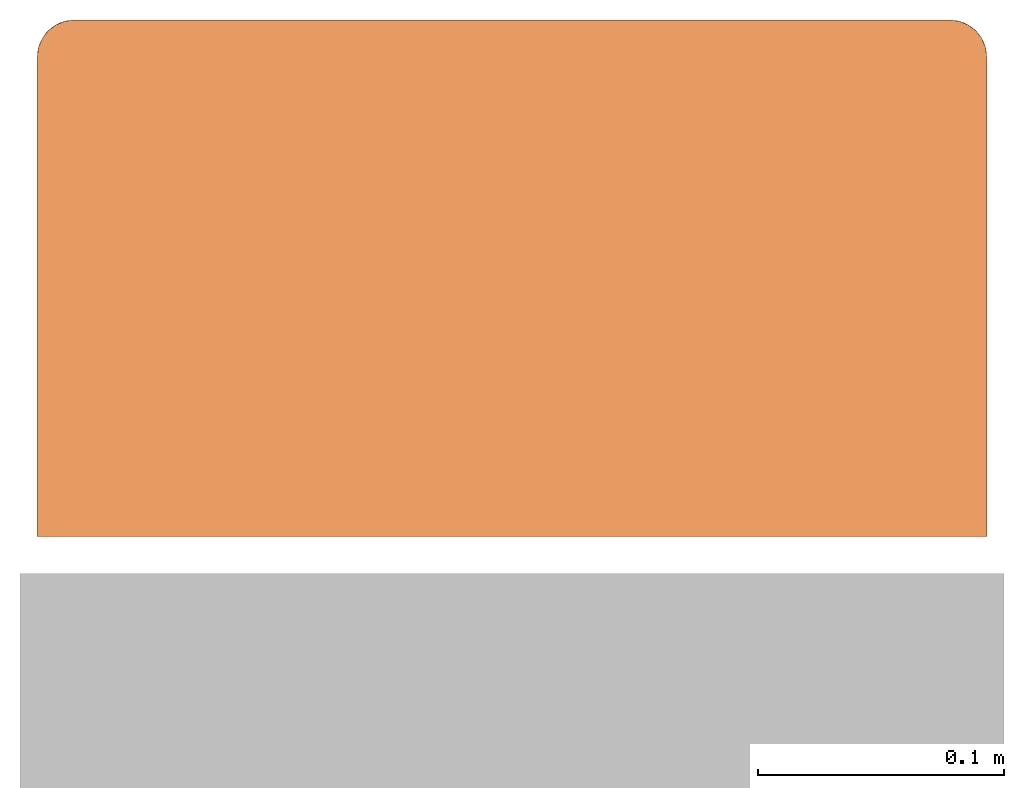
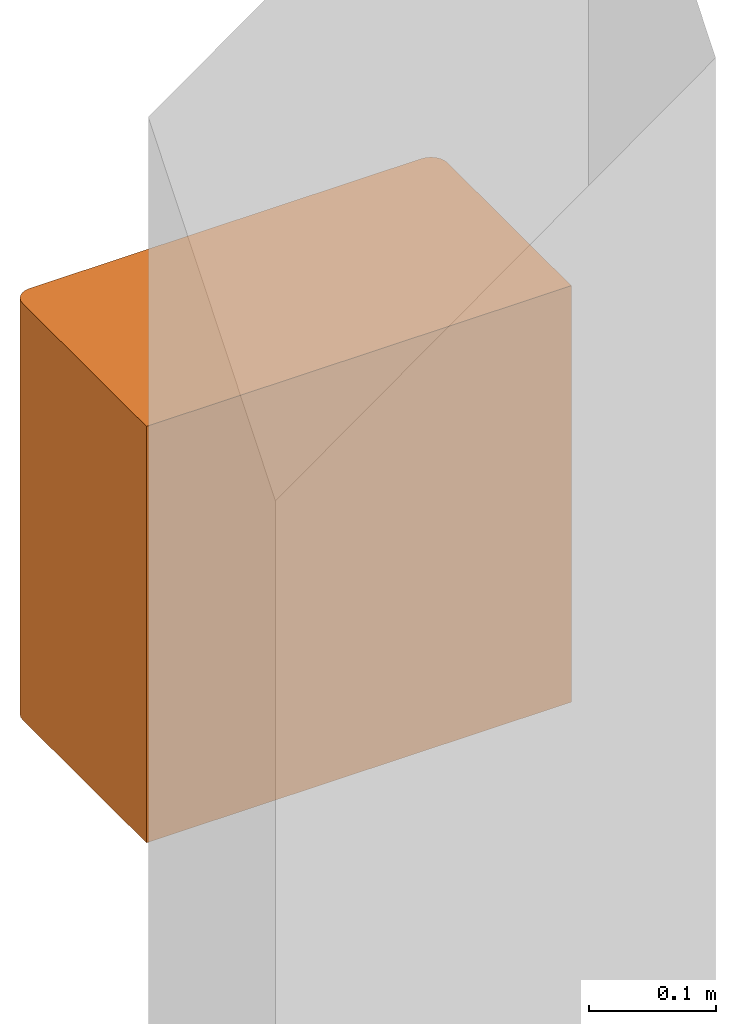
# One storey, part 2 of 2: 1 proxy.
"""IFC2X3 building model written with IfcOpenShell, lengths in millimetres."""

from ifc_helpers import new_model, entity, si_unit, converted_unit, derived_unit, direction, frame, origin, place, context, subcontext, project, spatial, faceted_brep, source, transform, mapped, element, save


model = new_model("IFC2X3")

# Units and contexts
model_context = context("Model", 3, precision=0.01, world=origin(), true_north=direction((6.12303176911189e-17, 1.0)))
context_of_model = context(None, 3, precision=0.01, world=origin(), true_north=direction((6.12303176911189e-17, 1.0)))
body_context = subcontext(model_context, "Body", "Model", "MODEL_VIEW")
ifc_project = project(units=[si_unit("LENGTHUNIT", "METRE", prefix="MILLI"), si_unit("AREAUNIT", "SQUARE_METRE"), si_unit("VOLUMEUNIT", "CUBIC_METRE"), converted_unit("PLANEANGLEUNIT", "DEGREE", entity("IfcRatioMeasure", 0.0174532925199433), si_unit("PLANEANGLEUNIT", "RADIAN"), dimensions=[0, 0, 0, 0, 0, 0, 0]), si_unit("MASSUNIT", "GRAM", prefix="KILO"), si_unit("TIMEUNIT", "SECOND"), si_unit("FREQUENCYUNIT", "HERTZ"), si_unit("THERMODYNAMICTEMPERATUREUNIT", "DEGREE_CELSIUS"), derived_unit("THERMALTRANSMITTANCEUNIT", [(si_unit("MASSUNIT", "GRAM", prefix="KILO"), 1), (si_unit("THERMODYNAMICTEMPERATUREUNIT", "KELVIN"), -1), (si_unit("TIMEUNIT", "SECOND"), -3)]), derived_unit("VOLUMETRICFLOWRATEUNIT", [(si_unit("LENGTHUNIT", "METRE"), 3), (si_unit("TIMEUNIT", "SECOND"), -1)]), si_unit("ELECTRICCURRENTUNIT", "AMPERE"), si_unit("ELECTRICVOLTAGEUNIT", "VOLT"), si_unit("POWERUNIT", "WATT"), si_unit("FORCEUNIT", "NEWTON", prefix="KILO"), si_unit("ILLUMINANCEUNIT", "LUX"), si_unit("LUMINOUSFLUXUNIT", "LUMEN"), si_unit("LUMINOUSINTENSITYUNIT", "CANDELA"), si_unit("PRESSUREUNIT", "PASCAL")], contexts=[model_context, context_of_model])

# Site, building, storey
site_placement = place(None, origin())
site = spatial("IfcSite", under=ifc_project, at=site_placement, Name="Default", CompositionType="ELEMENT")
building_placement = place(site_placement, origin())
building = spatial("IfcBuilding", under=site, at=building_placement, CompositionType="ELEMENT")
storey_placement = place(building_placement, origin())
storey = spatial("IfcBuildingStorey", under=building, at=storey_placement, Name="Level 1", CompositionType="ELEMENT", Elevation=0.0)

# Proxy
shared_shape = source(origin(), body_context, "Body", "Brep", [
    faceted_brep([(16.5952722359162, 210.0, 400.0), (12.7129865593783, 209.488887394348, 400.0), (9.09527223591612, 207.990381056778, 400.0), (5.98867051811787, 205.60660171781, 400.0), (3.60489117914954, 202.500000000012, 400.0), (2.10638484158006, 198.882285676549, 400.0), (1.595272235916, 195.0, 400.0), (1.595272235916, 0.0, 400.0), (387.595272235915, 0.0, 400.0), (387.595272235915, 195.0, 400.0), (387.084159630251, 198.882285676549, 400.0), (385.585653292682, 202.500000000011, 400.0), (383.201873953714, 205.60660171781, 400.0), (380.095272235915, 207.990381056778, 400.0), (376.477557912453, 209.488887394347, 400.0), (372.595272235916, 210.0, 400.0), (325.467292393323, 210.0, 0.0), (372.595272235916, 210.0, 0.0), (376.477557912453, 209.488887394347, 0.0), (380.095272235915, 207.990381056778, 0.0), (383.201873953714, 205.60660171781, 0.0), (385.585653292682, 202.500000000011, 0.0), (387.084159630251, 198.882285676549, 0.0), (387.595272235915, 195.0, 0.0), (387.595272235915, 0.0, 0.0), (1.595272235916, 0.0, 0.0), (1.595272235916, 195.0, 0.0), (2.10638484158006, 198.882285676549, 0.0), (3.60489117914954, 202.500000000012, 0.0), (5.98867051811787, 205.60660171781, 0.0), (9.09527223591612, 207.990381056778, 0.0), (12.7129865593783, 209.488887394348, 0.0), (16.595272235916, 210.0, 0.0), (45.4672923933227, 210.0, 0.0), (45.4672923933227, 208.0, 0.0), (325.467292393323, 208.0, 0.0), (387.595272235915, 195.0, 135.231947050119), (387.595272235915, 195.0, 270.466224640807), (387.315442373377, 197.883850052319, 311.607663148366), (386.45346522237, 200.740251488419, 275.988127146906), (387.291346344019, 198.004231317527, 202.849698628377), (384.495572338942, 204.131421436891, 308.003957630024), (386.00543343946, 201.720682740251, 200.0), (384.495572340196, 204.131421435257, 91.9960423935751), (384.4955723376, 204.13142143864, 200.0), (386.453465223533, 200.740251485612, 124.011872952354), (378.335523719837, 208.858192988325, 317.476397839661), (372.595272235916, 210.0, 129.533735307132), (375.246248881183, 209.763885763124, 82.4271111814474), (387.324927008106, 197.835007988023, 89.0465266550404), (381.726693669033, 206.900300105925, 282.406356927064), (372.595272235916, 210.0, 264.766867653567), (375.546033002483, 209.706903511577, 172.090468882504), (378.335523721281, 208.858192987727, 100.731055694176), (375.771392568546, 209.659886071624, 267.44708654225), (378.335523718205, 208.858192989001, 217.417775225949), (381.726693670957, 206.900300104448, 124.011872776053), (382.501732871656, 206.263304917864, 203.20911487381), (208.737407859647, 210.0, 153.701563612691), (204.595272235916, 210.0, 156.879936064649), (211.915780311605, 210.0, 149.55942798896), (199.771653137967, 210.0, 158.877944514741), (194.595272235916, 210.0, 159.55942798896), (213.913788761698, 210.0, 144.73580889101), (325.467292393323, 210.0, 40.0), (214.595272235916, 210.0, 139.55942798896), (213.913788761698, 210.0, 134.383047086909), (211.915780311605, 210.0, 129.55942798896), (208.737407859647, 210.0, 125.417292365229), (204.595272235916, 210.0, 122.238919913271), (199.771653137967, 210.0, 120.240911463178), (194.595272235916, 210.0, 119.55942798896), (45.4672923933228, 210.0, 40.0), (177.274764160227, 210.0, 149.55942798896), (175.276755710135, 210.0, 144.73580889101), (174.595272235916, 210.0, 139.55942798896), (189.418891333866, 210.0, 120.240911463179), (184.595272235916, 210.0, 122.238919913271), (180.453136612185, 210.0, 125.417292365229), (177.274764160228, 210.0, 129.55942798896), (175.276755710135, 210.0, 134.383047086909), (16.5952722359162, 210.0, 270.466278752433), (16.5952722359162, 210.0, 135.233118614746), (189.418891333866, 210.0, 158.877944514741), (184.595272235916, 210.0, 156.879936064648), (180.453136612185, 210.0, 153.701563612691), (13.7114221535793, 209.72017013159, 311.60766311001), (10.8550207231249, 208.858192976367, 275.988127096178), (13.5910409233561, 209.696074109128, 202.849700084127), (7.46385078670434, 206.900300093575, 308.003957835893), (9.8745894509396, 208.410161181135, 200.0), (7.46385079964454, 206.900300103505, 91.9960424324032), (7.46385077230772, 206.900300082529, 200.0), (10.8550207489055, 208.858192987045, 124.011873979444), (2.73707924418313, 200.740251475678, 317.476397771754), (1.595272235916, 195.0, 129.533681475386), (1.83138647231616, 197.650976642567, 82.4271110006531), (13.760264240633, 209.729654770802, 89.046527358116), (4.69497212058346, 204.131421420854, 282.406356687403), (1.595272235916, 195.0, 264.766840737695), (1.88836872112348, 197.950760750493, 172.090468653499), (2.73707924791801, 200.740251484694, 100.731055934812), (1.93538616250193, 198.176120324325, 267.447086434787), (2.73707923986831, 200.740251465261, 217.417774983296), (4.69497213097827, 204.131421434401, 124.011872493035), (5.33196730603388, 204.906460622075, 203.209114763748), (45.4672923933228, 208.0, 2.0), (325.467292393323, 208.0, 2.0), (325.467292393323, 208.0, 40.0), (45.4672923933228, 208.0, 40.0), (174.595272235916, 208.0, 139.55942798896), (175.276755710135, 208.0, 134.38304708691), (177.274764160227, 208.0, 129.55942798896), (180.453136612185, 208.0, 125.417292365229), (184.595272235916, 208.0, 122.238919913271), (189.418891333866, 208.0, 120.240911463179), (194.595272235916, 208.0, 119.55942798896), (204.595272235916, 208.0, 122.238919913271), (208.737407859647, 208.0, 125.417292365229), (199.771653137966, 208.0, 120.240911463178), (213.913788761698, 208.0, 134.383047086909), (214.595272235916, 208.0, 139.55942798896), (211.915780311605, 208.0, 129.559427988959), (213.913788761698, 208.0, 144.73580889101), (211.915780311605, 208.0, 149.55942798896), (204.595272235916, 208.0, 156.879936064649), (199.771653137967, 208.0, 158.877944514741), (208.737407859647, 208.0, 153.701563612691), (194.595272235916, 208.0, 159.55942798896), (184.595272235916, 208.0, 156.879936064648), (180.453136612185, 208.0, 153.701563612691), (189.418891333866, 208.0, 158.877944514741), (175.276755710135, 208.0, 144.73580889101), (177.274764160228, 208.0, 149.55942798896), (385.595272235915, 2.0, 398.0), (3.59527223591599, 2.0, 398.0), (3.59527223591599, 193.0, 398.0), (4.10638484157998, 196.882285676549, 398.0), (5.60489117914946, 200.500000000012, 398.0), (7.98867051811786, 203.60660171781, 398.0), (11.0952722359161, 205.990381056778, 398.0), (14.7129865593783, 207.488887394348, 398.0), (18.5952722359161, 208.0, 398.0), (370.595272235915, 208.0, 398.0), (374.477557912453, 207.488887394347, 398.0), (378.095272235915, 205.990381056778, 398.0), (381.201873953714, 203.60660171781, 398.0), (383.585653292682, 200.500000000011, 398.0), (385.084159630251, 196.882285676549, 398.0), (385.595272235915, 193.0, 398.0), (370.595272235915, 208.0, 2.0), (18.5952722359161, 208.0, 2.0), (14.7129865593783, 207.488887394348, 2.0), (11.0952722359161, 205.990381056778, 2.0), (7.98867051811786, 203.60660171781, 2.0), (5.60489117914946, 200.500000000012, 2.0), (4.10638484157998, 196.882285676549, 2.0), (3.59527223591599, 193.0, 2.0), (3.59527223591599, 2.0, 2.0), (385.595272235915, 2.0, 2.0), (385.595272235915, 193.0, 2.0), (385.084159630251, 196.882285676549, 2.0), (383.585653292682, 200.500000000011, 2.0), (381.201873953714, 203.60660171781, 2.0), (378.095272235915, 205.990381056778, 2.0), (374.477557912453, 207.488887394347, 2.0), (385.595272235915, 193.0, 272.465827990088), (385.595272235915, 193.0, 137.231737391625), (384.45346522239, 198.740251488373, 274.745582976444), (385.310365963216, 195.909642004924, 310.171986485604), (385.30076765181, 195.957770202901, 204.849698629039), (384.453465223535, 198.740251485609, 125.254417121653), (382.49557233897, 202.131421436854, 307.08480568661), (382.495572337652, 202.131421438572, 200.0), (382.495572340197, 202.131421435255, 92.9151943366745), (376.335523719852, 206.858192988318, 315.47639783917), (373.21619204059, 207.769251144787, 82.1966789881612), (370.595272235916, 208.0, 127.533735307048), (385.326001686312, 195.829418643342, 90.9092724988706), (379.726693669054, 204.900300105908, 280.406356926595), (373.546033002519, 207.706903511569, 170.09046888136), (370.595272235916, 208.0, 262.766867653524), (379.72669367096, 204.900300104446, 125.254416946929), (376.335523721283, 206.858192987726, 101.208146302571), (373.771392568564, 207.65988607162, 265.447086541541), (376.33552371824, 206.858192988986, 215.417775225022), (380.530698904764, 204.237762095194, 202.830386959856), (18.5952722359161, 208.0, 272.466260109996), (18.5952722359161, 208.0, 137.233130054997), (12.8550207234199, 206.858192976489, 274.745582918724), (15.6856302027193, 207.71509372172, 310.171986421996), (15.6375020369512, 207.705495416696, 204.849700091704), (12.8550207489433, 206.858192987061, 125.254418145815), (9.46385078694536, 204.90030009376, 307.084805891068), (9.46385077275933, 204.900300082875, 200.0), (9.46385079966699, 204.900300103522, 92.9151943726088), (4.73707924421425, 198.740251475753, 315.476397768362), (3.82602109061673, 195.620919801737, 82.1966787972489), (3.59527223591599, 193.0, 127.533972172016), (15.7658535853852, 207.730729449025, 90.9092732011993), (6.69497212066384, 202.131421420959, 280.406356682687), (3.88836872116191, 195.950760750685, 170.090468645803), (3.59527223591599, 193.0, 262.766809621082), (6.6949721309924, 202.131421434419, 125.25441666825), (4.73707924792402, 198.740251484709, 101.208146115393), (3.93538616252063, 196.176120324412, 265.447086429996), (4.73707923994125, 198.740251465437, 215.417774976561), (7.35751012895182, 202.935426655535, 202.830386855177)], [[[0, 1, 2, 3, 4, 5, 6, 7, 8, 9, 10, 11, 12, 13, 14, 15]], [[16, 17, 18, 19, 20, 21, 22, 23, 24, 25, 26, 27, 28, 29, 30, 31, 32, 33, 34, 35]], [[8, 24, 23, 36, 37, 9]], [[10, 38, 39]], [[39, 38, 40]], [[41, 42, 43, 44]], [[12, 11, 41]], [[20, 43, 21]], [[22, 21, 45]], [[14, 13, 46]], [[47, 48, 17]], [[9, 37, 38]], [[49, 22, 45]], [[41, 39, 42]], [[41, 50, 12]], [[47, 51, 52]], [[53, 19, 18]], [[40, 37, 36]], [[51, 54, 52]], [[13, 12, 50]], [[10, 39, 11]], [[43, 45, 21]], [[50, 55, 46]], [[55, 56, 53]], [[14, 46, 54]], [[56, 19, 53]], [[23, 22, 49]], [[56, 57, 43]], [[57, 55, 50]], [[56, 20, 19]], [[14, 54, 15]], [[57, 41, 44, 43]], [[52, 48, 47]], [[39, 41, 11]], [[56, 43, 20]], [[50, 46, 13]], [[54, 46, 55]], [[54, 55, 52]], [[54, 51, 15]], [[55, 53, 52]], [[48, 53, 18]], [[53, 48, 52]], [[17, 48, 18]], [[49, 40, 36]], [[42, 40, 45]], [[9, 38, 10]], [[40, 38, 37]], [[40, 42, 39]], [[43, 42, 45]], [[40, 49, 45]], [[23, 49, 36]], [[55, 57, 56]], [[41, 57, 50]], [[15, 58, 59]], [[58, 15, 60]], [[59, 61, 15]], [[15, 61, 62]], [[63, 60, 15]], [[64, 63, 15]], [[62, 0, 15]], [[64, 15, 51]], [[64, 51, 47]], [[64, 47, 17]], [[17, 16, 64]], [[64, 65, 63]], [[64, 66, 65]], [[67, 66, 64]], [[68, 67, 64]], [[68, 64, 69]], [[70, 69, 64]], [[64, 71, 70]], [[64, 72, 71]], [[0, 73, 72]], [[72, 73, 74]], [[72, 74, 75]], [[71, 72, 76]], [[76, 72, 77]], [[78, 77, 72]], [[78, 72, 79]], [[80, 79, 72]], [[80, 72, 75]], [[72, 81, 0]], [[72, 82, 81]], [[72, 32, 82]], [[33, 32, 72]], [[62, 83, 0]], [[84, 0, 83]], [[0, 84, 85]], [[85, 73, 0]], [[1, 86, 87]], [[87, 86, 88]], [[89, 90, 91, 92]], [[3, 2, 89]], [[29, 91, 30]], [[31, 30, 93]], [[5, 4, 94]], [[95, 96, 26]], [[0, 81, 86]], [[97, 31, 93]], [[89, 87, 90]], [[89, 98, 3]], [[95, 99, 100]], [[101, 28, 27]], [[88, 81, 82]], [[99, 102, 100]], [[4, 3, 98]], [[1, 87, 2]], [[91, 93, 30]], [[98, 103, 94]], [[103, 104, 101]], [[5, 94, 102]], [[104, 28, 101]], [[32, 31, 97]], [[104, 105, 91]], [[105, 103, 98]], [[104, 29, 28]], [[5, 102, 6]], [[105, 89, 92, 91]], [[100, 96, 95]], [[87, 89, 2]], [[104, 91, 29]], [[98, 94, 4]], [[102, 94, 103]], [[102, 103, 100]], [[102, 99, 6]], [[103, 101, 100]], [[96, 101, 27]], [[101, 96, 100]], [[26, 96, 27]], [[97, 88, 82]], [[90, 88, 93]], [[0, 86, 1]], [[88, 86, 81]], [[88, 90, 87]], [[91, 90, 93]], [[88, 97, 93]], [[32, 97, 82]], [[103, 105, 104]], [[89, 105, 98]], [[7, 6, 99, 95, 26, 25]], [[8, 7, 25, 24]], [[35, 34, 106, 107]], [[64, 16, 35, 107, 108]], [[64, 108, 109, 72]], [[33, 72, 109, 106, 34]], [[80, 75, 110, 111]], [[80, 111, 112, 79]], [[77, 78, 113, 114]], [[78, 79, 112, 113]], [[76, 77, 114, 115]], [[115, 116, 71, 76]], [[117, 118, 68, 69]], [[119, 117, 69, 70]], [[120, 121, 65, 66]], [[122, 120, 66, 67]], [[118, 122, 67, 68]], [[70, 71, 116, 119]], [[63, 65, 121, 123]], [[63, 123, 124, 60]], [[125, 126, 61, 59]], [[58, 60, 124, 127]], [[59, 58, 127, 125]], [[126, 128, 62, 61]], [[129, 130, 85, 84]], [[131, 129, 84, 83]], [[132, 110, 75, 74]], [[133, 132, 74, 73]], [[130, 133, 73, 85]], [[83, 62, 128, 131]], [[134, 135, 136, 137, 138, 139, 140, 141, 142, 143, 144, 145, 146, 147, 148, 149]], [[150, 107, 106, 151, 152, 153, 154, 155, 156, 157, 158, 159, 160, 161, 162, 163, 164, 165]], [[159, 134, 149, 166, 167, 160]], [[168, 169, 148]], [[170, 169, 168]], [[171, 168, 172, 173, 174]], [[172, 147, 146]], [[162, 174, 163]], [[171, 162, 161]], [[175, 145, 144]], [[150, 176, 177]], [[169, 166, 149]], [[171, 161, 178]], [[146, 179, 172]], [[180, 181, 177]], [[164, 182, 183]], [[167, 166, 170]], [[180, 184, 181]], [[179, 146, 145]], [[147, 168, 148]], [[162, 171, 174]], [[175, 185, 179]], [[185, 183, 182]], [[184, 175, 144]], [[164, 183, 165]], [[178, 161, 160]], [[174, 186, 182]], [[179, 185, 186]], [[164, 163, 182]], [[143, 184, 144]], [[174, 173, 172, 186]], [[177, 176, 180]], [[147, 172, 168]], [[163, 174, 182]], [[145, 175, 179]], [[185, 175, 184]], [[180, 185, 184]], [[143, 181, 184]], [[180, 183, 185]], [[165, 183, 176]], [[180, 176, 183]], [[165, 176, 150]], [[167, 170, 178]], [[170, 168, 171]], [[148, 169, 149]], [[166, 169, 170]], [[171, 178, 170]], [[167, 178, 160]], [[182, 186, 185]], [[179, 186, 172]], [[125, 127, 143]], [[143, 126, 125]], [[124, 143, 127]], [[143, 124, 123]], [[143, 123, 108]], [[123, 121, 108]], [[121, 120, 108]], [[108, 120, 122]], [[108, 122, 118]], [[117, 108, 118]], [[108, 117, 119]], [[108, 119, 116]], [[109, 108, 116]], [[109, 116, 115]], [[114, 109, 115]], [[109, 114, 113]], [[112, 109, 113]], [[109, 112, 111]], [[110, 109, 111]], [[110, 132, 109]], [[132, 133, 109]], [[109, 133, 142]], [[142, 133, 130]], [[130, 129, 142]], [[131, 142, 129]], [[142, 131, 128]], [[128, 126, 143]], [[143, 142, 128]], [[109, 142, 187]], [[109, 187, 188]], [[109, 188, 151]], [[109, 151, 106]], [[108, 181, 143]], [[108, 177, 181]], [[108, 150, 177]], [[108, 107, 150]], [[189, 190, 141]], [[191, 190, 189]], [[192, 189, 193, 194, 195]], [[193, 140, 139]], [[153, 195, 154]], [[192, 153, 152]], [[196, 138, 137]], [[157, 197, 198]], [[190, 187, 142]], [[192, 152, 199]], [[139, 200, 193]], [[201, 202, 198]], [[155, 203, 204]], [[188, 187, 191]], [[201, 205, 202]], [[200, 139, 138]], [[140, 189, 141]], [[153, 192, 195]], [[196, 206, 200]], [[206, 204, 203]], [[205, 196, 137]], [[155, 204, 156]], [[199, 152, 151]], [[195, 207, 203]], [[200, 206, 207]], [[155, 154, 203]], [[136, 205, 137]], [[195, 194, 193, 207]], [[198, 197, 201]], [[140, 193, 189]], [[154, 195, 203]], [[138, 196, 200]], [[206, 196, 205]], [[201, 206, 205]], [[136, 202, 205]], [[201, 204, 206]], [[156, 204, 197]], [[201, 197, 204]], [[156, 197, 157]], [[188, 191, 199]], [[191, 189, 192]], [[141, 190, 142]], [[187, 190, 191]], [[192, 199, 191]], [[188, 199, 151]], [[203, 207, 206]], [[200, 207, 193]], [[135, 158, 157, 198, 202, 136]], [[158, 135, 134, 159]]]),
])
proxy_placement = place(storey_placement, frame((-401.691023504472, -734.514920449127, 1000.0)))
element("IfcBuildingElementProxy", 1, at=proxy_placement, inside=storey, Name="14708102200b:d_line_Washroom_WallMountedSanitaryPanels_Touchless200mmPaperRollDispenser", ObjectType="d_line_Washroom_WallMountedSanitaryPanels_Touchless200mmPaperRollDispenser", CompositionType="ELEMENT", context=body_context, shape_type="MappedRepresentation", body=[
    mapped(shared_shape, transform((0.0, 0.0, 0.0), scale=1.0)),
])

save(model, "model.ifc")
